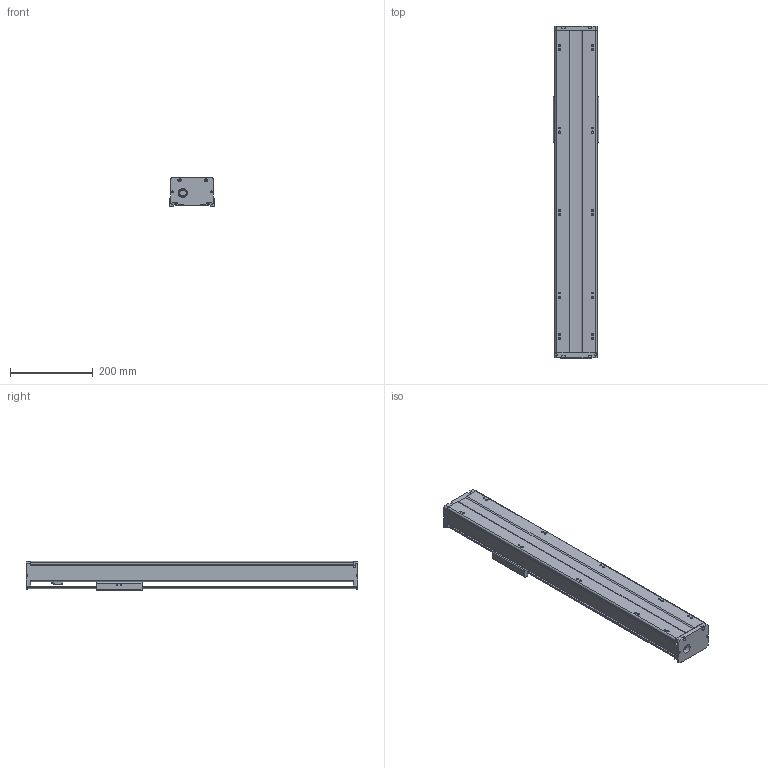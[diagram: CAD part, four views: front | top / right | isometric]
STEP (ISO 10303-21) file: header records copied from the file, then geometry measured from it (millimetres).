
FILE_DESCRIPTION(/* description */ (''),/* implementation_level */ '2;1');
FILE_NAME(/* name */ 'TKA100-550A1F0_asm1.stp',/* time_stamp */ '2017-02-20T16:18:09+08:00',/* author */ (''),/* organization */ (''),/* preprocessor_version */ 'ST-DEVELOPER v15',/* originating_system */ 'SIEMENS PLM Software NX 8.5',/* authorisation */ '');
FILE_SCHEMA (('AUTOMOTIVE_DESIGN { 1 0 10303 214 3 1 1 1 }'));
Length unit declared in the file: millimetre
Products named in the file (3): 200-02; 200-01; TKA100-550A1F0_asm1_stp
Assembly tree (2 placements, depth 2):
  TKA100-550A1F0_asm1_stp
    200-01
    200-02
Bounding box: 110 x 804 x 71 mm (x, y, z)
Volume: 1754294.3 mm3; surface area: 576202.9 mm2
Topology: 2 solids, 8 shells, 685 faces, 1825 edges, 1192 vertices
Faces by surface type: cylinder 267, plane 257, cone 108, torus 27, bspline 26
Full cylindrical faces by diameter (mm): 2.5 x6, 2.6 x8, 3.3 x8, 3.4 x8, 3.8 x4, 4.2 x19, 4.3 x4, 4.5 x4, 5 x1, 5.5 x18, 6.6 x4, 8 x5, 9 x4, 10 x10, 11 x4, 12 x6, 12.05 x2, 15.3 x1, 15.4 x1, 16 x1, 17 x2, 18 x1, 22 x1, 24 x1, 28 x5, 30 x1
Entity records: 25812 total; most frequent: CARTESIAN_POINT 9820, DIRECTION 3263, ORIENTED_EDGE 3056, EDGE_CURVE 1528, AXIS2_PLACEMENT_3D 1305, VERTEX_POINT 1119, EDGE_LOOP 994, ADVANCED_FACE 685
